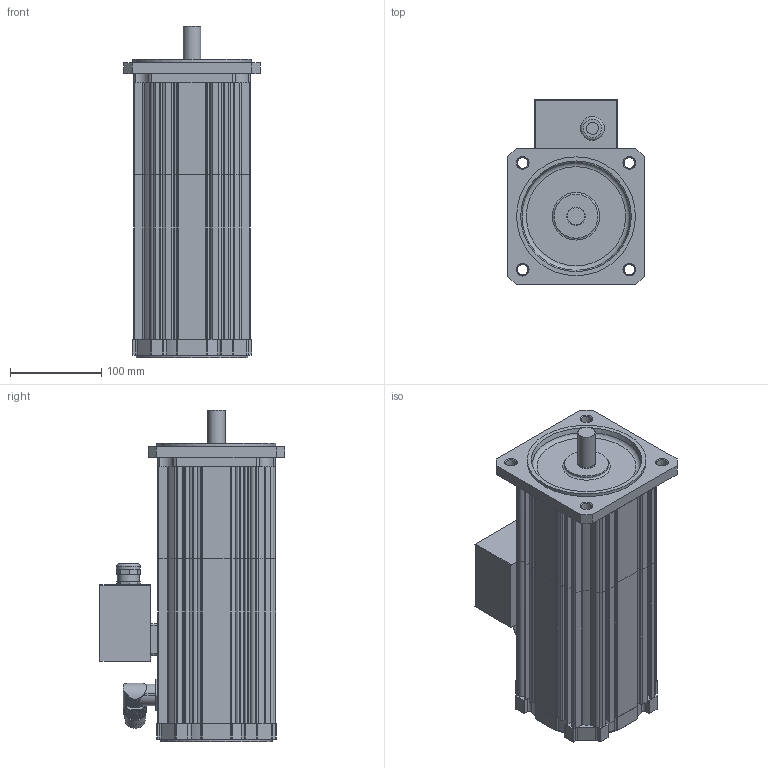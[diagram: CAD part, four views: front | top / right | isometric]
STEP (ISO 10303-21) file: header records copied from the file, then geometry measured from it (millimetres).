
FILE_DESCRIPTION(/* description */ (''),/* implementation_level */ '2;1');
FILE_NAME(/* name */ 'KSA6412_Ix',/* time_stamp */ '2009-02-26T14:59:54+01:00',/* author */ (''),/* organization */ (''),/* preprocessor_version */ 'ST-DEVELOPER v8',/* originating_system */ 'UNIGRAPHICS SOLUTIONS - UNIGRAPHICS 18.0',/* authorisation */ '');
FILE_SCHEMA (('AUTOMOTIVE_DESIGN { 1 2 10303 214 0 1 1 1 }'));
Length unit declared in the file: millimetre
Products named in the file (7): 0280391350_0; Winkelflanschdose_0; 089106X_0; LagerschBS_0; LagerschAS_0; Klemmenkasten_0; KSA648_Ix_0
Assembly tree (6 placements, depth 3):
  KSA648_Ix_0
    LagerschAS_0
    Klemmenkasten_0
      0280391350_0
    LagerschBS_0
    089106X_0
    Winkelflanschdose_0
Bounding box: 149 x 202.35 x 363 mm (x, y, z)
Volume: 2325017.7 mm3; surface area: 593262.7 mm2
Topology: 7 solids, 7 shells, 781 faces, 2209 edges, 1459 vertices
Faces by surface type: cylinder 476, plane 287, cone 10, torus 4, sphere 4
Full cylindrical faces by diameter (mm): 13 x1, 16 x1, 18 x1, 19 x1, 20 x3, 21 x1, 21.5 x1, 23 x2, 24 x1, 26 x1, 48 x1, 114 x1, 119.7 x2, 121 x1, 122 x2, 130 x1
Entity records: 25889 total; most frequent: CARTESIAN_POINT 5021, DIRECTION 4458, ORIENTED_EDGE 4326, EDGE_CURVE 2163, AXIS2_PLACEMENT_3D 1647, VERTEX_POINT 1452, LINE 1164, VECTOR 1164
